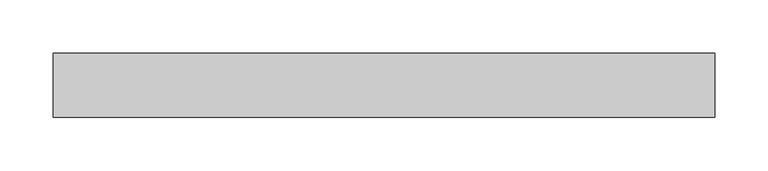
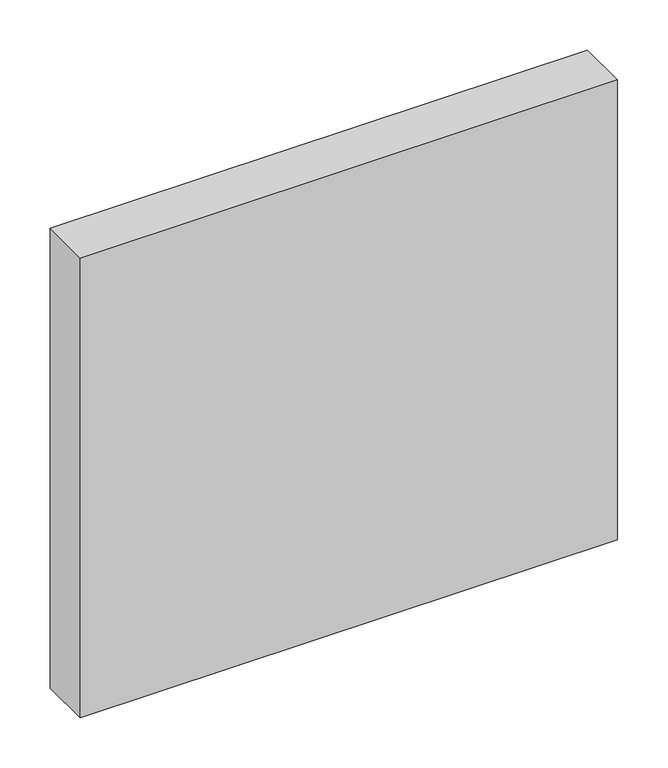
"""IFC4 building model written with IfcOpenShell, lengths in millimetres: plate geometry, Системная панель : Алюкобонд серый."""

from ifc_helpers import new_model, si_unit, origin, origin_with_axes, place, context, project, spatial, polyline, outline, extrude, source, transform, mapped, element, save


def plate_a703ac08(model_context):
    return source(origin(), model_context, "Body", "SweptSolid", [
        extrude(outline(polyline([(309.75, -10.5), (-309.75, -10.5), (-309.75, 49.5), (309.75, 49.5), (309.75, -10.5)])), origin_with_axes(), (0.0, 0.0, 1.0), 560.0),
    ])


if __name__ == "__main__":
    model = new_model("IFC4")
    model_context = context("Model", 3, world=origin())
    ifc_project = project(units=[si_unit("LENGTHUNIT", "METRE", prefix="MILLI")], contexts=[model_context])
    site = spatial("IfcSite", under=ifc_project)
    building = spatial("IfcBuilding", under=site)
    placement = place(None, origin())
    plate_shape = plate_a703ac08(model_context)
    element("IfcPlate", 1, ObjectType="Системная панель : Алюкобонд серый", at=placement, inside=building, context=model_context, shape_type="MappedRepresentation", body=[
        mapped(plate_shape, transform((0.0, 0.0, 0.0), x_axis=(1.0, 0.0, 0.0), y_axis=(0.0, 1.0, 0.0), z_axis=(0.0, 0.0, 1.0))),
    ])
    save(model, "model.ifc")
